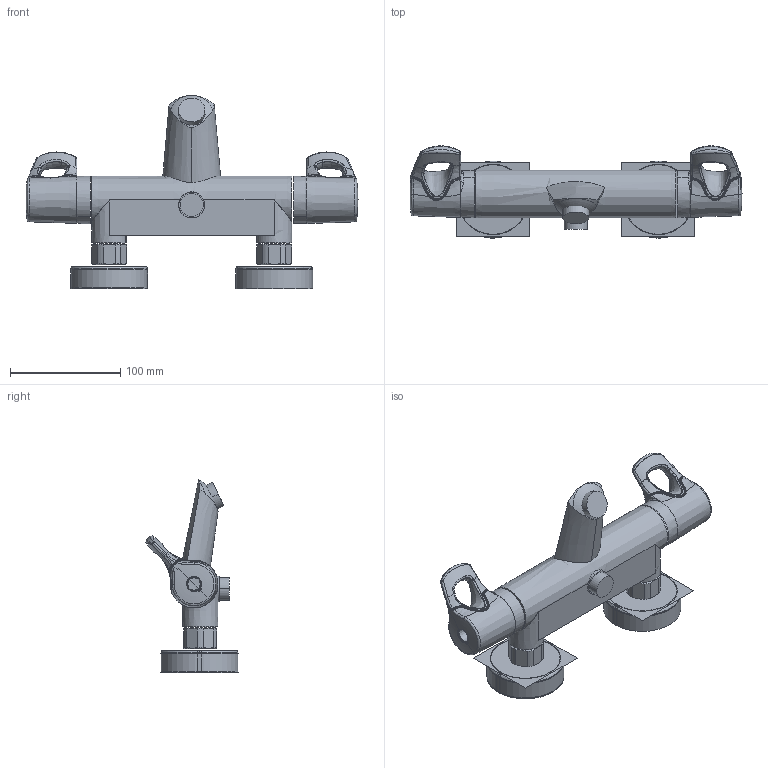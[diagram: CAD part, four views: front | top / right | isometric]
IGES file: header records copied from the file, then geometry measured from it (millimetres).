
Start section:  PTC IGES file: 57503_web.igs
Global section: file name: 57503_web.igs; native system: Creo Parametric by PTC Inc.; preprocessor: 2017380; author: jaj; organization: Unknown; date: 20180808.152708; units: millimetre
Bounding box: 301.69 x 83.62 x 175.42 mm (x, y, z)
Surface area: 124239.1 mm2 (no closed solid volume)
Topology: 0 solids, 0 shells, 607 faces, 3019 edges, 3112 vertices
Faces by surface type: bspline 494, revolution 113
